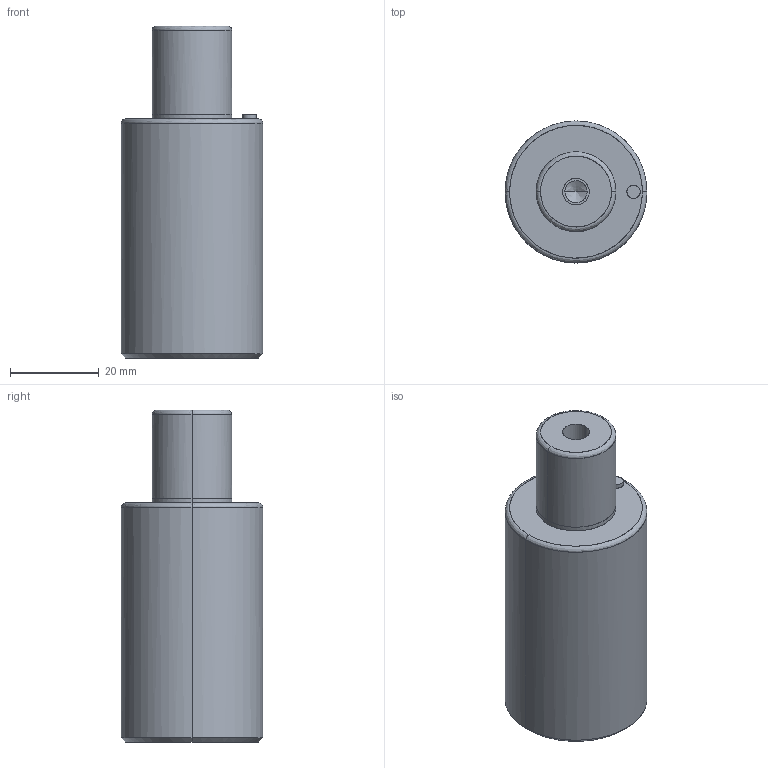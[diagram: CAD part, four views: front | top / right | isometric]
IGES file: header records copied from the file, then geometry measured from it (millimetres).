
Global section: file name: E:\UnigraphicsGraphicData\MISUMI_PRESS-PARTS\IGES\3d_gsc32-20_03823_r00.igs; native system: NX V5.0; preprocessor: UGS NX IGES V5.0; author: MISUMI; date: 20110105.160744; units: millimetre
Bounding box: 32 x 31.99 x 75 mm (x, y, z)
Surface area: 8507.5 mm2 (no closed solid volume)
Topology: 0 solids, 0 shells, 32 faces, 216 edges, 212 vertices
Faces by surface type: bspline 32
